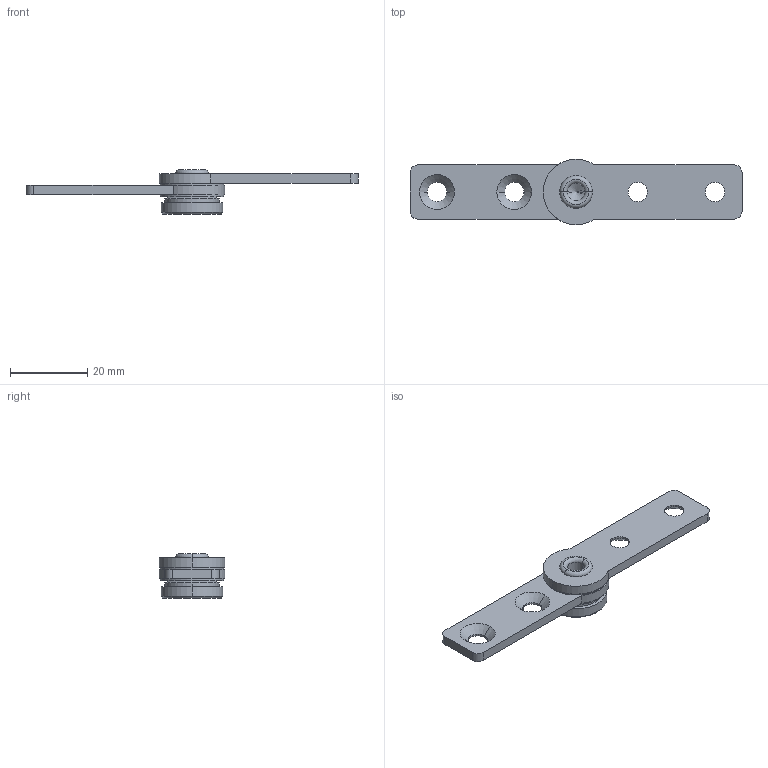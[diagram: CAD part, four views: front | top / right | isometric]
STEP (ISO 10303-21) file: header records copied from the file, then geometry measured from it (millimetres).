
FILE_DESCRIPTION (( 'STEP AP203' ), '1' );
FILE_NAME ('XG11-030-1.STEP', '2023-12-04T08:40:57', ( '' ), ( '' ), 'SwSTEP 2.0', 'SolidWorks 2020', '' );
FILE_SCHEMA (( 'CONFIG_CONTROL_DESIGN' ));
Length unit declared in the file: millimetre
Products named in the file (1): XG11-030-1
Bounding box: 86 x 16.96 x 11.5 mm (x, y, z)
Volume: 4277.1 mm3; surface area: 5156.3 mm2
Topology: 6 solids, 6 shells, 74 faces, 166 edges, 103 vertices
Faces by surface type: cylinder 38, plane 18, cone 14, torus 4
Entity records: 2173 total; most frequent: DIRECTION 408, CARTESIAN_POINT 342, ORIENTED_EDGE 328, AXIS2_PLACEMENT_3D 169, EDGE_CURVE 164, VERTEX_POINT 103, CIRCLE 94, EDGE_LOOP 93
